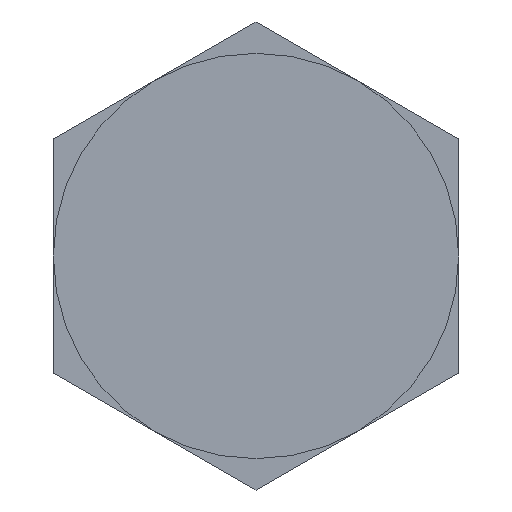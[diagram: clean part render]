
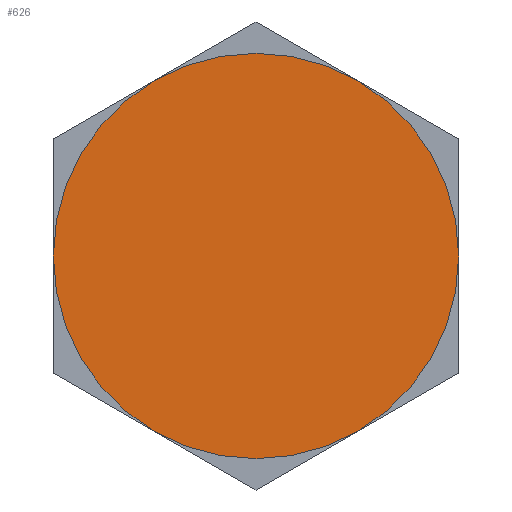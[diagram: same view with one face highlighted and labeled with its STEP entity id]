
A CAD part, left-side view. The second image highlights one B-rep face of the part: STEP entity #626.
In plain terms, the highlighted planar face has unit normal (-1, 0, 0).
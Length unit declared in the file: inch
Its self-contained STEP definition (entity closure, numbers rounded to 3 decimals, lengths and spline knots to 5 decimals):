
#63 = ORIENTED_EDGE ( 'NONE', *, *, #322, .F. ) ;
#99 = ORIENTED_EDGE ( 'NONE', *, *, #369, .F. ) ;
#145 = CIRCLE ( 'NONE', #356, 0.625 ) ;
#169 = VERTEX_POINT ( 'NONE', #524 ) ;
#181 = EDGE_LOOP ( 'NONE', ( #99, #63 ) ) ;
#209 = VERTEX_POINT ( 'NONE', #526 ) ;
#225 = DIRECTION ( 'NONE',  ( 0., 0., -1. ) ) ;
#307 = AXIS2_PLACEMENT_3D ( 'NONE', #690, #691, #692 ) ;
#322 = EDGE_CURVE ( 'NONE', #169, #209, #145, .T. ) ;
#356 = AXIS2_PLACEMENT_3D ( 'NONE', #522, #636, #225 ) ;
#363 = AXIS2_PLACEMENT_3D ( 'NONE', #723, #724, #725 ) ;
#369 = EDGE_CURVE ( 'NONE', #209, #169, #512, .T. ) ;
#493 = FACE_OUTER_BOUND ( 'NONE', #181, .T. ) ;
#512 = CIRCLE ( 'NONE', #363, 0.625 ) ;
#522 = CARTESIAN_POINT ( 'NONE',  ( -4.792, 0., 0. ) ) ;
#524 = CARTESIAN_POINT ( 'NONE',  ( -4.792, 0., 0.625 ) ) ;
#526 = CARTESIAN_POINT ( 'NONE',  ( -4.792, 0., -0.625 ) ) ;
#626 = ADVANCED_FACE ( 'NONE', ( #493 ), #682, .T. ) ;
#636 = DIRECTION ( 'NONE',  ( 1., 0., 0. ) ) ;
#682 = PLANE ( 'NONE',  #307 ) ;
#690 = CARTESIAN_POINT ( 'NONE',  ( -4.792, 0.625, 0. ) ) ;
#691 = DIRECTION ( 'NONE',  ( -1., 0., 0. ) ) ;
#692 = DIRECTION ( 'NONE',  ( 0., 0., 1. ) ) ;
#723 = CARTESIAN_POINT ( 'NONE',  ( -4.792, 0., 0. ) ) ;
#724 = DIRECTION ( 'NONE',  ( 1., 0., 0. ) ) ;
#725 = DIRECTION ( 'NONE',  ( 0., 0., -1. ) ) ;
